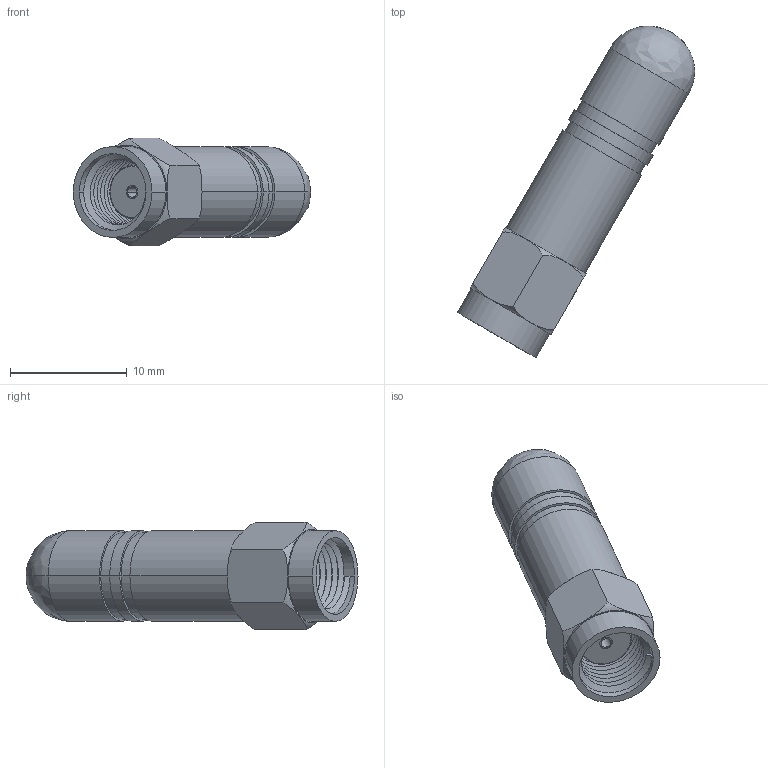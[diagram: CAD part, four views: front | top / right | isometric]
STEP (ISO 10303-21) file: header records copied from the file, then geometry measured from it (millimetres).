
FILE_DESCRIPTION (( 'STEP AP214' ), '1' );
FILE_NAME ('GW.26.0151_Web.STEP', '2020-01-16T02:33:14', ( '' ), ( '' ), 'SwSTEP 2.0', 'SolidWorks 2017', '' );
FILE_SCHEMA (( 'AUTOMOTIVE_DESIGN' ));
Length unit declared in the file: millimetre
Products named in the file (2): GW.26.0151_Web
Bounding box: 20.36 x 28.49 x 9.24 mm (x, y, z)
Volume: 1252.5 mm3; surface area: 1172.2 mm2
Topology: 1 solids, 1 shells, 81 faces, 184 edges, 116 vertices
Faces by surface type: cylinder 42, plane 21, torus 12, bspline 4, cone 2
Entity records: 4165 total; most frequent: CARTESIAN_POINT 2238, ORIENTED_EDGE 368, DIRECTION 335, EDGE_CURVE 184, AXIS2_PLACEMENT_3D 139, VERTEX_POINT 116, EDGE_LOOP 92, FACE_OUTER_BOUND 81
